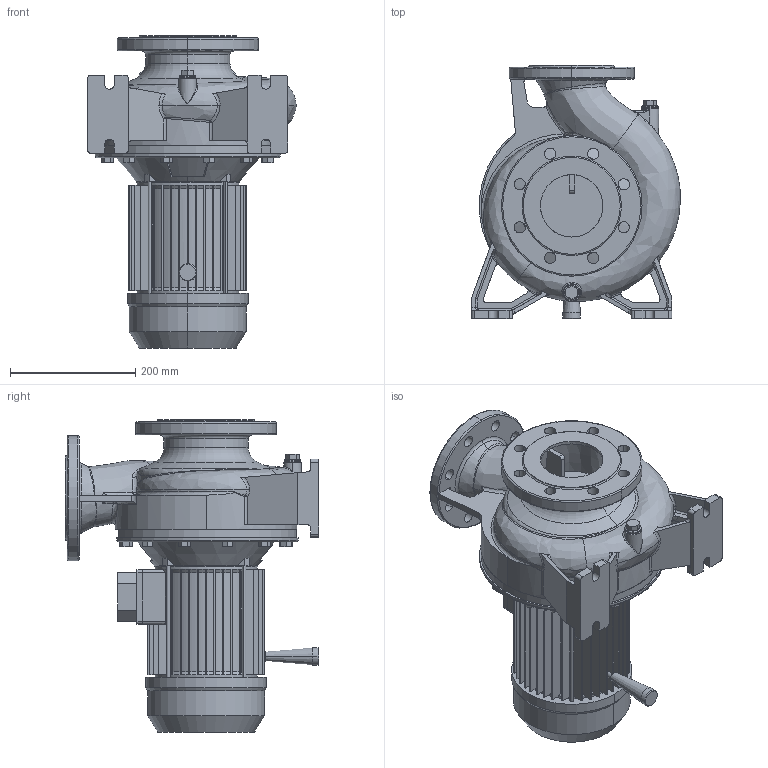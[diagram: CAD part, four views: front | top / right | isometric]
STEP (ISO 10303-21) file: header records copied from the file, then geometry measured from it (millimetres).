
FILE_DESCRIPTION((''),'2;1');
FILE_NAME('3M4_80-160_2_2_IE2_ASM','2012-03-14T',('Rosa'),('"Ebara Pumps Europe +39.444.706811"'),'PRO/ENGINEER BY PARAMETRIC TECHNOLOGY CORPORATION, 2009360','PRO/ENGINEER BY PARAMETRIC TECHNOLOGY CORPORATION, 2009360','');
FILE_SCHEMA(('AUTOMOTIVE_DESIGN { 1 0 10303 214 1 1 1 1 }'));
Length unit declared in the file: millimetre
Products named in the file (5): CORPO_POMPA_80-160; SUPPORTO_3M_230_100; MEC_100X130_IE2; 72405; 3M4_80-160_2_2_IE2_ASM
Assembly tree (4 placements, depth 2):
  3M4_80-160_2_2_IE2_ASM
    CORPO_POMPA_80-160
    SUPPORTO_3M_230_100
    MEC_100X130_IE2
    72405
Bounding box: 333.66 x 405 x 499 mm (x, y, z)
Volume: 14844717.7 mm3; surface area: 1248930.5 mm2
Topology: 4 solids, 4 shells, 893 faces, 2221 edges, 1371 vertices
Faces by surface type: plane 452, cylinder 206, bspline 98, cone 94, torus 33, sphere 10
Entity records: 41325 total; most frequent: CARTESIAN_POINT 12904, ORIENTED_EDGE 4440, DIRECTION 4094, EDGE_CURVE 2220, PRESENTATION_STYLE_ASSIGNMENT 2209, STYLED_ITEM 2209, CURVE_STYLE 2206, AXIS2_PLACEMENT_3D 1492
